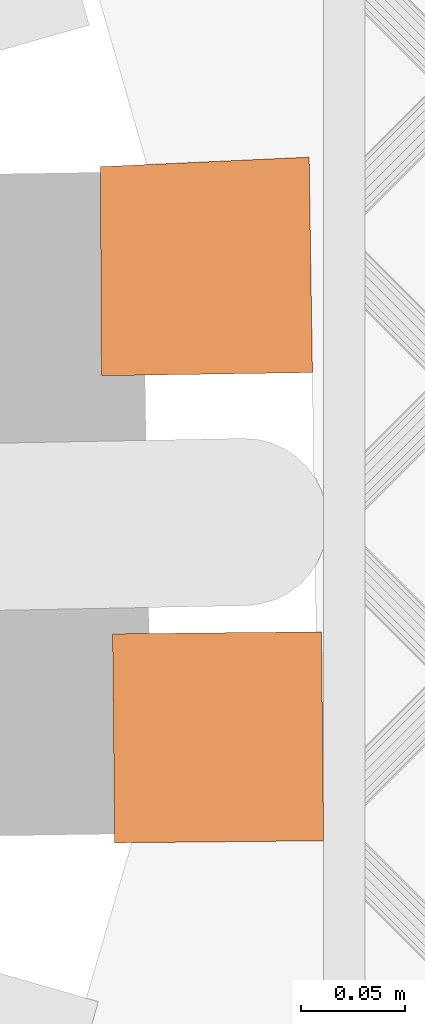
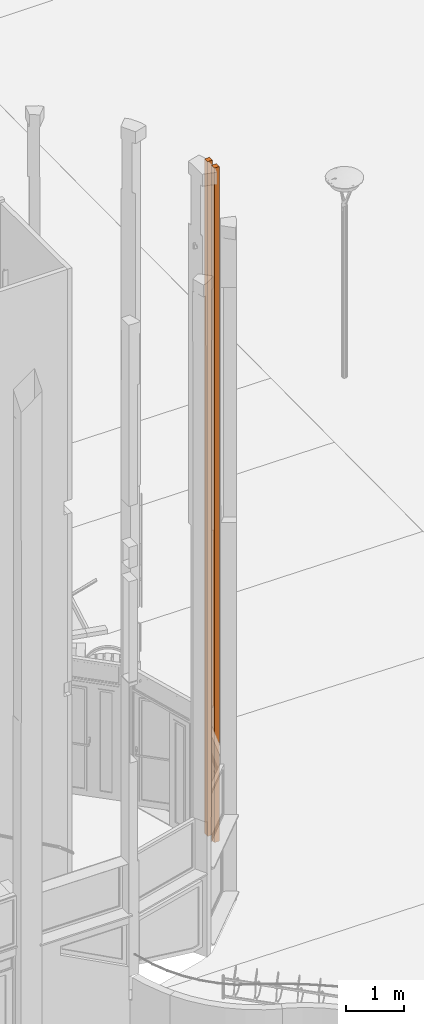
# One storey, part 127 of 133: 2 proxies.
"""IFC2X3 building model written with IfcOpenShell, lengths in centimetres."""

from ifc_helpers import new_model, entity, si_unit, converted_unit, direction, frame, origin, origin_with_axes, place, context, subcontext, project, spatial, faceted_brep, material, element, save


model = new_model("IFC2X3")

# Units and contexts
model_context = context("Model", 3, precision=0.0001, world=origin(), true_north=direction((0.225632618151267, 0.974212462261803, 0.0)))
body_context = subcontext(model_context, "Body", "Model", "MODEL_VIEW")
ifc_project = project(units=[si_unit("LENGTHUNIT", "METRE", prefix="CENTI"), si_unit("AREAUNIT", "SQUARE_METRE", prefix="CENTI"), si_unit("VOLUMEUNIT", "CUBIC_METRE", prefix="CENTI"), converted_unit("PLANEANGLEUNIT", "DEGREE", entity("IfcRatioMeasure", 0.0174532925), si_unit("PLANEANGLEUNIT", "RADIAN"), dimensions=[0, 0, 0, 0, 0, 0, 0])], contexts=[model_context])

# Site, building, storey
site_placement = place(None, origin_with_axes())
site = spatial("IfcSite", under=ifc_project, at=site_placement, Name="Default Site", CompositionType="ELEMENT")
building_placement = place(site_placement, origin_with_axes())
building = spatial("IfcBuilding", under=site, at=building_placement, Name="Default Building", CompositionType="ELEMENT")
storey_placement = place(building_placement, frame((0.0, 0.0, -291.400371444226), z_axis=(0.0, 0.0, 1.0), x_axis=(1.0, 0.0, 0.0)))
storey = spatial("IfcBuildingStorey", under=building, at=storey_placement, Name="Rez-de-Jardin", CompositionType="ELEMENT", Elevation=-291.400371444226)

# Proxies
ifc_material = material(Name="Blanc")
proxy_1_placement = place(storey_placement, frame((1661.34950890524, -553.941113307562, 106.0), z_axis=(0.0, 0.0, 1.0), x_axis=(1.0, 0.0, 0.0)))
element("IfcBuildingElementProxy", 1, at=proxy_1_placement, inside=storey, material=ifc_material, Name="Encombrement 503479", context=body_context, shape_type="Brep", body=[
    faceted_brep([(-2.16005489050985e-05, 6.51129772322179e-06, 1414.20209873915), (-9.99948754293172, -0.0997955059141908, 1414.20209873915), (-9.89973320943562, -10.099261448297, 1414.20209873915), (0.0997327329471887, -9.99950711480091, 1414.20209873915), (-2.16005489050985e-05, 6.51129772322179e-06, 4.66108349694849e-06), (-9.99948783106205, -0.0997666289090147, 4.66108349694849e-06), (-9.99948783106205, -0.0997666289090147, 1414.20209873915), (-9.99948754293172, -0.0997955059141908, 4.66108349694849e-06), (-9.89971440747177, -10.0992612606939, 4.66108349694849e-06), (-9.89971440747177, -10.0992612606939, 1414.20209873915), (-9.89973320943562, -10.099261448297, 4.66108349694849e-06), (0.0997325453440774, -9.99948831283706, 4.66108349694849e-06), (0.0997325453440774, -9.99948831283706, 1414.20209873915), (0.0997327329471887, -9.99950711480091, 4.66108349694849e-06), (-4.08782461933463e-05, 6.31894781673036e-06, 4.66108349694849e-06), (-4.08782461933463e-05, 6.31894781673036e-06, 1414.20209873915)], [[[0, 1, 2, 3]], [[4, 5, 6, 0]], [[7, 8, 9, 1]], [[10, 11, 12, 2]], [[13, 14, 15, 3]], [[13, 10, 7, 4]]]),
])
proxy_2_placement = place(storey_placement, frame((1660.75582826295, -531.229527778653, 106.0), z_axis=(0.0, 0.0, 1.0), x_axis=(1.0, 0.0, 0.0)))
element("IfcBuildingElementProxy", 2, at=proxy_2_placement, inside=storey, material=ifc_material, Name="Encombrement 503080", context=body_context, shape_type="Brep", body=[
    faceted_brep([(9.21472079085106e-05, -1.59072599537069e-05, 1414.20209873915), (-9.98964631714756, -0.460545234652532, 1414.20209873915), (-9.94272554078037, -10.4604403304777, 1414.20209873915), (0.156685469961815, -10.3068987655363, 1414.20209873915), (9.21472079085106e-05, -1.59072599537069e-05, 4.66108349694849e-06), (-9.98964615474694, -0.460548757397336, 4.66108349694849e-06), (-9.98964615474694, -0.460548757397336, 1414.20209873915), (-9.98964631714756, -0.460545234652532, 4.66108349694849e-06), (-9.94268573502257, -10.4604401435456, 4.66108349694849e-06), (-9.94268573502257, -10.4604401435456, 1414.20209873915), (-9.94272554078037, -10.4604403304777, 4.66108349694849e-06), (0.156685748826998, -10.3069171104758, 4.66108349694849e-06), (0.156685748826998, -10.3069171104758, 1414.20209873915), (0.156685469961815, -10.3068987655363, 4.66108349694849e-06), (8.45148157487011e-06, -1.71795358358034e-05, 4.66108349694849e-06), (8.45148157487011e-06, -1.71795358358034e-05, 1414.20209873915)], [[[0, 1, 2, 3]], [[4, 5, 6, 0]], [[7, 8, 9, 1]], [[10, 11, 12, 2]], [[13, 14, 15, 3]], [[13, 10, 7, 4]]]),
])

save(model, "model.ifc")
